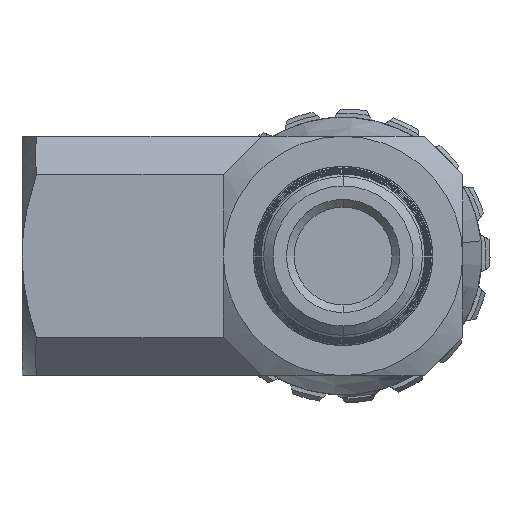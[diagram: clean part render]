
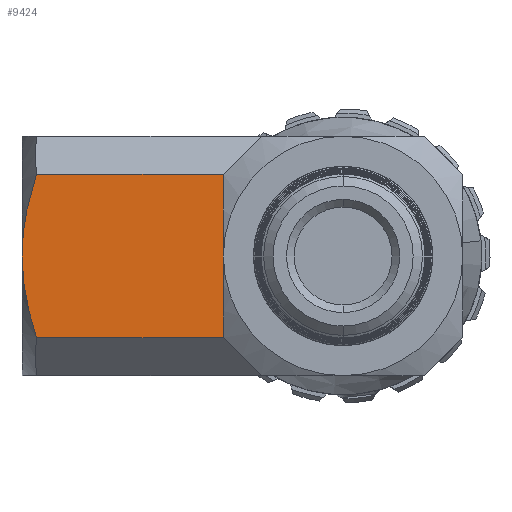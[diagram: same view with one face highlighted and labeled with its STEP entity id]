
A CAD part, front view. The second image highlights one B-rep face of the part: STEP entity #9424.
In plain terms, the highlighted planar face has unit normal (0, -1, 0).
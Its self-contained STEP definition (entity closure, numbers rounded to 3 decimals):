
#322 = EDGE_CURVE ( 'NONE', #9760, #24001, #14396, .T. ) ;
#456 = VECTOR ( 'NONE', #11811, 1000. ) ;
#625 = CARTESIAN_POINT ( 'NONE',  ( -11., -11., -7.5 ) ) ;
#828 = CARTESIAN_POINT ( 'NONE',  ( -29.5, -11., 0. ) ) ;
#1093 = CARTESIAN_POINT ( 'NONE',  ( -28.894, -11., 5.058 ) ) ;
#1159 = CARTESIAN_POINT ( 'NONE',  ( -29.369, -11., -2.541 ) ) ;
#2155 = DIRECTION ( 'NONE',  ( 0., 0., -1. ) ) ;
#2390 = CARTESIAN_POINT ( 'NONE',  ( -28.164, -11., -7.5 ) ) ;
#3564 = CARTESIAN_POINT ( 'NONE',  ( -28.559, -11., 6.285 ) ) ;
#3677 = CARTESIAN_POINT ( 'NONE',  ( -29.341, -11., 2.555 ) ) ;
#4240 = EDGE_CURVE ( 'NONE', #11844, #24001, #15963, .T. ) ;
#4717 = EDGE_CURVE ( 'NONE', #24887, #11844, #5089, .T. ) ;
#5054 = FACE_OUTER_BOUND ( 'NONE', #31666, .T. ) ;
#5089 = B_SPLINE_CURVE_WITH_KNOTS ( 'NONE', 3,
 ( #828, #19123, #1159, #21732, #6301, #24295 ),
 .UNSPECIFIED., .F., .F.,
 ( 4, 2, 4 ),
 ( 0.036, 0.04, 0.043 ),
 .UNSPECIFIED. ) ;
#6241 = CARTESIAN_POINT ( 'NONE',  ( -29.5, -11., 0.638 ) ) ;
#6301 = CARTESIAN_POINT ( 'NONE',  ( -28.559, -11., -6.287 ) ) ;
#7360 = CARTESIAN_POINT ( 'NONE',  ( -29.5, -11., 0. ) ) ;
#7556 = VECTOR ( 'NONE', #27589, 1000. ) ;
#9229 = VERTEX_POINT ( 'NONE', #32103 ) ;
#9424 = ADVANCED_FACE ( 'NONE', ( #5054 ), #17449, .T. ) ;
#9760 = VERTEX_POINT ( 'NONE', #21592 ) ;
#10745 = ORIENTED_EDGE ( 'NONE', *, *, #13938, .T. ) ;
#11811 = DIRECTION ( 'NONE',  ( -1., 0., 0. ) ) ;
#11844 = VERTEX_POINT ( 'NONE', #2390 ) ;
#13938 = EDGE_CURVE ( 'NONE', #9229, #24887, #30743, .T. ) ;
#14396 = LINE ( 'NONE', #22411, #7556 ) ;
#15963 = LINE ( 'NONE', #625, #22812 ) ;
#15976 = ORIENTED_EDGE ( 'NONE', *, *, #4240, .T. ) ;
#15997 = DIRECTION ( 'NONE',  ( 1., 0., 0. ) ) ;
#17449 = PLANE ( 'NONE',  #20859 ) ;
#17560 = DIRECTION ( 'NONE',  ( 0., -1., 0. ) ) ;
#17640 = ORIENTED_EDGE ( 'NONE', *, *, #322, .F. ) ;
#19049 = CARTESIAN_POINT ( 'NONE',  ( -29.248, -11., 3.185 ) ) ;
#19123 = CARTESIAN_POINT ( 'NONE',  ( -29.5, -11., -1.278 ) ) ;
#20676 = ORIENTED_EDGE ( 'NONE', *, *, #27866, .T. ) ;
#20859 = AXIS2_PLACEMENT_3D ( 'NONE', #32996, #17560, #2155 ) ;
#21592 = CARTESIAN_POINT ( 'NONE',  ( -11., -11., 7.5 ) ) ;
#21655 = CARTESIAN_POINT ( 'NONE',  ( -29.467, -11., 1.283 ) ) ;
#21732 = CARTESIAN_POINT ( 'NONE',  ( -28.898, -11., -5.043 ) ) ;
#22411 = CARTESIAN_POINT ( 'NONE',  ( -11., -11., -11. ) ) ;
#22812 = VECTOR ( 'NONE', #15997, 1000. ) ;
#24001 = VERTEX_POINT ( 'NONE', #25200 ) ;
#24226 = CARTESIAN_POINT ( 'NONE',  ( -29.5, -11., 0. ) ) ;
#24295 = CARTESIAN_POINT ( 'NONE',  ( -28.164, -11., -7.5 ) ) ;
#24510 = ORIENTED_EDGE ( 'NONE', *, *, #4717, .T. ) ;
#24887 = VERTEX_POINT ( 'NONE', #7360 ) ;
#25200 = CARTESIAN_POINT ( 'NONE',  ( -11., -11., -7.5 ) ) ;
#27002 = LINE ( 'NONE', #29722, #456 ) ;
#27589 = DIRECTION ( 'NONE',  ( 0., 0., -1. ) ) ;
#27866 = EDGE_CURVE ( 'NONE', #9760, #9229, #27002, .T. ) ;
#29287 = CARTESIAN_POINT ( 'NONE',  ( -28.164, -11., 7.5 ) ) ;
#29722 = CARTESIAN_POINT ( 'NONE',  ( -29.5, -11., 7.5 ) ) ;
#30743 = B_SPLINE_CURVE_WITH_KNOTS ( 'NONE', 3,
 ( #29287, #3564, #1093, #19049, #3677, #21655, #6241, #24226 ),
 .UNSPECIFIED., .F., .F.,
 ( 4, 2, 2, 4 ),
 ( 0.028, 0.032, 0.034, 0.036 ),
 .UNSPECIFIED. ) ;
#31666 = EDGE_LOOP ( 'NONE', ( #20676, #10745, #24510, #15976, #17640 ) ) ;
#32103 = CARTESIAN_POINT ( 'NONE',  ( -28.164, -11., 7.5 ) ) ;
#32996 = CARTESIAN_POINT ( 'NONE',  ( -29.5, -11., 11. ) ) ;
